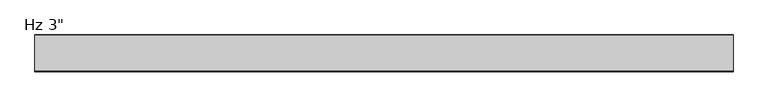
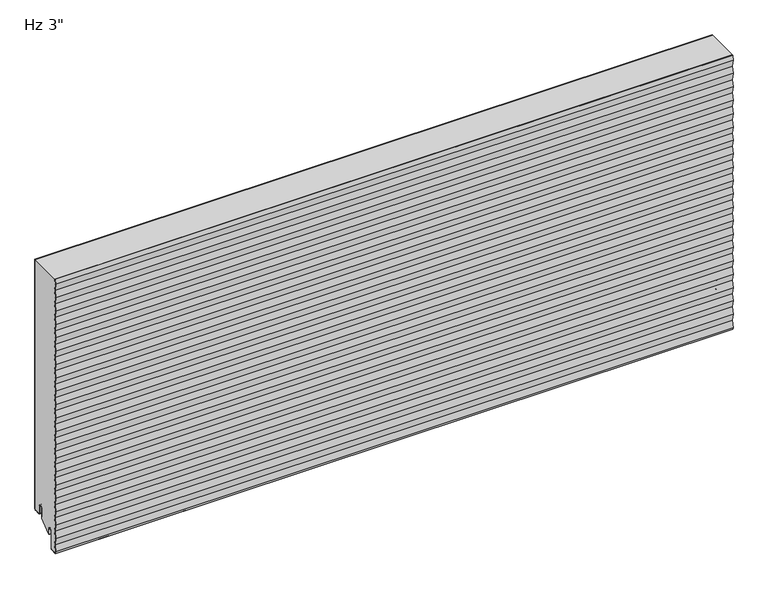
"""IFC4 building model written with IfcOpenShell, lengths in millimetres: plate geometry."""

from ifc_helpers import new_model, si_unit, point, frame, frame_2d, origin, place, context, project, spatial, polyline, circle_curve, trimmed, segment, composite_curve, outline, extrude, source, transform, mapped, element, save


def plate_09c6d2a2(model_context):
    return source(origin(), model_context, "Body", "SweptSolid", [
        extrude(outline(composite_curve([segment(trimmed(circle_curve(frame_2d((-21.43125, 19.05)), 4.96875), [point((-16.4625, 19.05))], [point((-26.4, 19.05))], True, "CARTESIAN"), True, "CONTINUOUS"), segment(polyline([(-26.4, 19.05), (-26.4, -3.1323422), (-49.2157227, -23.01875), (-50.8, -23.01875), (-50.8, -13.5080174), (-51.59375, -13.5080174), (-51.3875, -11.9205174)]), True, "CONTINUOUS"), segment(trimmed(circle_curve(frame_2d((-56.35625, -11.9205174)), 4.96875), [point((-51.3875, -11.9205174))], [point((-61.325, -11.9205174))], True, "CARTESIAN"), True, "CONTINUOUS"), segment(polyline([(-61.325, -11.9205174), (-61.325, -50.1038221)]), True, "CONTINUOUS"), segment(trimmed(circle_curve(frame_2d((-62.70625, -50.1038221)), 1.38125), [point((-61.325, -50.1038221))], [point((-62.633961, -51.4831791))], False, "CARTESIAN"), True, "CONTINUOUS"), segment(polyline([(-62.633961, -51.4831791), (-75.8062471, -52.1735094), (-76.3378194, -48.8511825), (-73.8994194, -33.6111825), (-76.3378194, -18.3711825), (-73.8994194, -3.1311825), (-76.3378194, 12.1088175), (-73.8994194, 27.3488175), (-76.3378194, 42.5888175), (-73.8994194, 57.8288175), (-76.3378194, 73.0688175), (-73.8994194, 88.3088175), (-76.3378194, 103.5488175), (-73.8994194, 118.7888175), (-76.3378194, 134.0288175), (-73.8994194, 149.2688175), (-76.3378194, 164.5088175), (-73.8994194, 179.7488175), (-76.3378194, 194.9888175), (-73.8994194, 210.2288175), (-76.3378194, 225.4688175), (-73.8994194, 240.7088175), (-76.3378194, 255.9488175), (-73.8994194, 271.1888175), (-76.3378194, 286.4288175), (-73.8994194, 301.6688175), (-76.3378194, 316.9088175), (-73.8994194, 332.1488175), (-76.3378194, 347.3888175), (-73.8994194, 362.6288175), (-76.3378194, 377.8688175), (-73.8994194, 393.1088175), (-76.3378194, 408.3488175), (-73.8994194, 423.5888175), (-76.3378194, 438.8288175), (-73.8994194, 454.0688175), (-76.3378194, 469.3088175), (-73.8994194, 484.5488175), (-76.3378194, 499.7888175), (-73.8994194, 515.0288175), (-76.3378194, 530.2688175), (-73.8994194, 545.5088175), (-76.3378194, 560.7488175), (-74.6656302, 571.2), (-1.0, 571.2), (-1.0, 3.175)]), True, "CONTINUOUS"), segment(trimmed(circle_curve(frame_2d((-2.38125, 3.175)), 1.38125), [point((-1.0, 3.175))], [point((-2.38125, 1.79375))], False, "CARTESIAN"), True, "CONTINUOUS"), segment(polyline([(-2.38125, 1.79375), (-15.08125, 1.79375)]), True, "CONTINUOUS"), segment(trimmed(circle_curve(frame_2d((-15.08125, 3.175)), 1.38125), [point((-15.08125, 1.79375))], [point((-16.4625, 3.175))], False, "CARTESIAN"), True, "CONTINUOUS"), segment(polyline([(-16.4625, 3.175), (-16.4625, 19.05)]), True, "CONTINUOUS")], self_intersect=False)), frame((-730.0, 0.0, 0.0), z_axis=(1.0, 0.0, 0.0), x_axis=(0.0, 1.0, 0.0)), (0.0, 0.0, 1.0), 1460.0),
        extrude(outline(composite_curve([segment(polyline([(-25.4, 0.79375), (-26.4, 0.79375), (-26.4, 19.05)]), True, "CONTINUOUS"), segment(trimmed(circle_curve(frame_2d((-21.43125, 19.05)), 4.96875), [point((-26.4, 19.05))], [point((-16.4625, 19.05))], False, "CARTESIAN"), True, "CONTINUOUS"), segment(polyline([(-16.4625, 19.05), (-16.4625, 3.175)]), True, "CONTINUOUS"), segment(trimmed(circle_curve(frame_2d((-15.08125, 3.175)), 1.38125), [point((-16.4625, 3.175))], [point((-15.08125, 1.79375))], True, "CARTESIAN"), True, "CONTINUOUS"), segment(polyline([(-15.08125, 1.79375), (-2.38125, 1.79375)]), True, "CONTINUOUS"), segment(trimmed(circle_curve(frame_2d((-2.38125, 3.175)), 1.38125), [point((-2.38125, 1.79375))], [point((-1.0, 3.175))], True, "CARTESIAN"), True, "CONTINUOUS"), segment(polyline([(-1.0, 3.175), (-1.0, 571.2), (0.0, 571.2), (0.0, 3.175)]), True, "CONTINUOUS"), segment(trimmed(circle_curve(frame_2d((-2.38125, 3.175)), 2.38125), [point((0.0, 3.175))], [point((-2.38125, 0.79375))], False, "CARTESIAN"), True, "CONTINUOUS"), segment(polyline([(-2.38125, 0.79375), (-15.08125, 0.79375)]), True, "CONTINUOUS"), segment(trimmed(circle_curve(frame_2d((-15.08125, 3.175)), 2.38125), [point((-15.08125, 0.79375))], [point((-17.4625, 3.175))], False, "CARTESIAN"), True, "CONTINUOUS"), segment(polyline([(-17.4625, 3.175), (-17.4625, 19.05)]), True, "CONTINUOUS"), segment(trimmed(circle_curve(frame_2d((-21.43125, 19.05)), 3.96875), [point((-17.4625, 19.05))], [point((-25.4, 19.05))], True, "CARTESIAN"), True, "CONTINUOUS"), segment(polyline([(-25.4, 19.05), (-25.4, 0.79375)]), True, "CONTINUOUS")], self_intersect=False)), frame((-730.0, 0.0, 0.0), z_axis=(1.0, 0.0, 0.0), x_axis=(0.0, 1.0, 0.0)), (0.0, 0.0, 1.0), 1460.0),
        extrude(outline(composite_curve([segment(trimmed(circle_curve(frame_2d((-51.59375, -23.2314549)), 0.79375), [point((-50.8, -23.2314549))], [point((-52.3875, -23.2314549))], False, "CARTESIAN"), True, "CONTINUOUS"), segment(polyline([(-52.3875, -23.2314549), (-52.3875, -11.9205174)]), True, "CONTINUOUS"), segment(trimmed(circle_curve(frame_2d((-56.35625, -11.9205174)), 3.96875), [point((-52.3875, -11.9205174))], [point((-60.325, -11.9205174))], True, "CARTESIAN"), True, "CONTINUOUS"), segment(polyline([(-60.325, -11.9205174), (-60.325, -50.1038221)]), True, "CONTINUOUS"), segment(trimmed(circle_curve(frame_2d((-62.70625, -50.1038221)), 2.38125), [point((-60.325, -50.1038221))], [point((-62.581625, -52.4818086))], False, "CARTESIAN"), True, "CONTINUOUS"), segment(polyline([(-62.581625, -52.4818086), (-76.7543553, -53.22457), (-77.4509395, -48.8709186), (-75.0125395, -33.6309186), (-77.4509395, -18.3909186), (-75.0125395, -3.1509186), (-77.4509395, 12.0890814), (-75.0125395, 27.3290814), (-77.4509395, 42.5690814), (-75.0125395, 57.8090814), (-77.4509395, 73.0490814), (-75.0125395, 88.2890814), (-77.4509395, 103.5290814), (-75.0125395, 118.7690814), (-77.4509395, 134.0090814), (-75.0125395, 149.2490814), (-77.4509395, 164.4890814), (-75.0125395, 179.7290814), (-77.4509395, 194.9690814), (-75.0125395, 210.2090814), (-77.4509395, 225.4490814), (-75.0125395, 240.6890814), (-77.4509395, 255.9290814), (-75.0125395, 271.1690814), (-77.4509395, 286.4090814), (-75.0125395, 301.6490814), (-77.4509395, 316.8890814), (-75.0125395, 332.1290814), (-77.4509395, 347.3690814), (-75.0125395, 362.6090814), (-77.4509395, 377.8490814), (-75.0125395, 393.0890814), (-77.4509395, 408.3290814), (-75.0125395, 423.5690814), (-77.4509395, 438.8090814), (-75.0125395, 454.0490814), (-77.4509395, 469.2890814), (-75.0125395, 484.5290814), (-77.4509395, 499.7690814), (-75.0125395, 515.0090814), (-77.4509395, 530.2490814), (-75.0125395, 545.4890814), (-77.4509395, 560.7290814), (-75.7755925, 571.2), (-74.7628734, 571.2), (-76.4382204, 560.7290814), (-73.9998204, 545.4890814), (-76.4382204, 530.2490814), (-73.9998204, 515.0090814), (-76.4382204, 499.7690814), (-73.9998204, 484.5290814), (-76.4382204, 469.2890814), (-73.9998204, 454.0490814), (-76.4382204, 438.8090814), (-73.9998204, 423.5690814), (-76.4382204, 408.3290814), (-73.9998204, 393.0890814), (-76.4382204, 377.8490814), (-73.9998204, 362.6090814), (-76.4382204, 347.3690814), (-73.9998204, 332.1290814), (-76.4382204, 316.8890814), (-73.9998204, 301.6490814), (-76.4382204, 286.4090814), (-73.9998204, 271.1690814), (-76.4382204, 255.9290814), (-73.9998204, 240.6890814), (-76.4382204, 225.4490814), (-73.9998204, 210.2090814), (-76.4382204, 194.9690814), (-73.9998204, 179.7290814), (-76.4382204, 164.4890814), (-73.9998204, 149.2490814), (-76.4382204, 134.0090814), (-73.9998204, 118.7690814), (-76.4382204, 103.5290814), (-73.9998204, 88.2890814), (-76.4382204, 73.0490814), (-73.9998204, 57.8090814), (-76.4382204, 42.5690814), (-73.9998204, 27.3290814), (-76.4382204, 12.0890814), (-73.9998204, -3.1509186), (-76.4382204, -18.3909186), (-73.9998204, -33.6309186), (-76.4382204, -48.8709186), (-75.9089447, -52.1788915), (-62.633961, -51.4831791)]), True, "CONTINUOUS"), segment(trimmed(circle_curve(frame_2d((-62.70625, -50.1038221)), 1.38125), [point((-62.633961, -51.4831791))], [point((-61.325, -50.1038221))], True, "CARTESIAN"), True, "CONTINUOUS"), segment(polyline([(-61.325, -50.1038221), (-61.325, -11.9205174)]), True, "CONTINUOUS"), segment(trimmed(circle_curve(frame_2d((-56.35625, -11.9205174)), 4.96875), [point((-61.325, -11.9205174))], [point((-51.3875, -11.9205174))], False, "CARTESIAN"), True, "CONTINUOUS"), segment(polyline([(-51.3875, -11.9205174), (-51.59375, -13.5080174), (-50.8, -13.5080174), (-50.8, -23.2314549)]), True, "CONTINUOUS")], self_intersect=False)), frame((-730.0, 0.0, 0.0), z_axis=(1.0, 0.0, 0.0), x_axis=(0.0, 1.0, 0.0)), (0.0, 0.0, 1.0), 1460.0),
    ])


if __name__ == "__main__":
    model = new_model("IFC4")
    model_context = context("Model", 3, world=origin())
    ifc_project = project(units=[si_unit("LENGTHUNIT", "METRE", prefix="MILLI")], contexts=[model_context])
    site = spatial("IfcSite", under=ifc_project)
    building = spatial("IfcBuilding", under=site)
    placement = place(None, origin())
    plate_shape = plate_09c6d2a2(model_context)
    element("IfcPlate", 1, ObjectType="KIP-36-DWHR-R19-CP-Hz-S : Hz 3\"", at=placement, inside=building, context=model_context, shape_type="MappedRepresentation", body=[
        mapped(plate_shape, transform((0.0, 0.0, 0.0), x_axis=(1.0, 0.0, 0.0), y_axis=(0.0, 1.0, 0.0), z_axis=(0.0, 0.0, 1.0))),
    ])
    save(model, "model.ifc")
